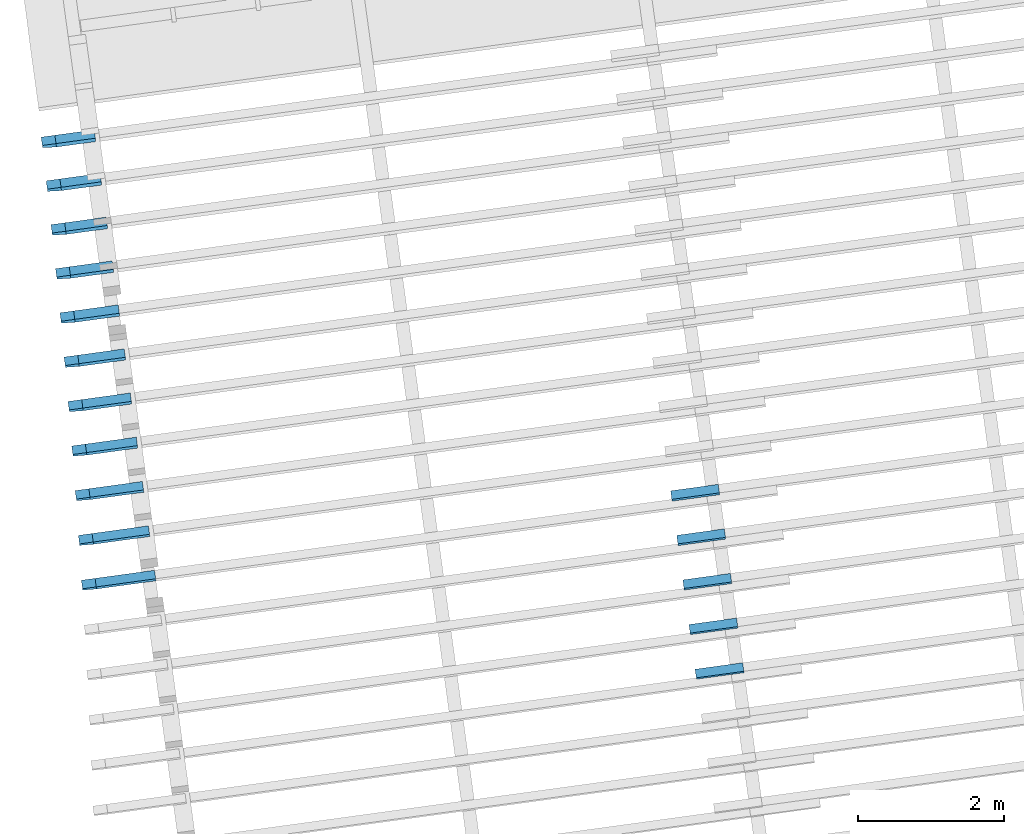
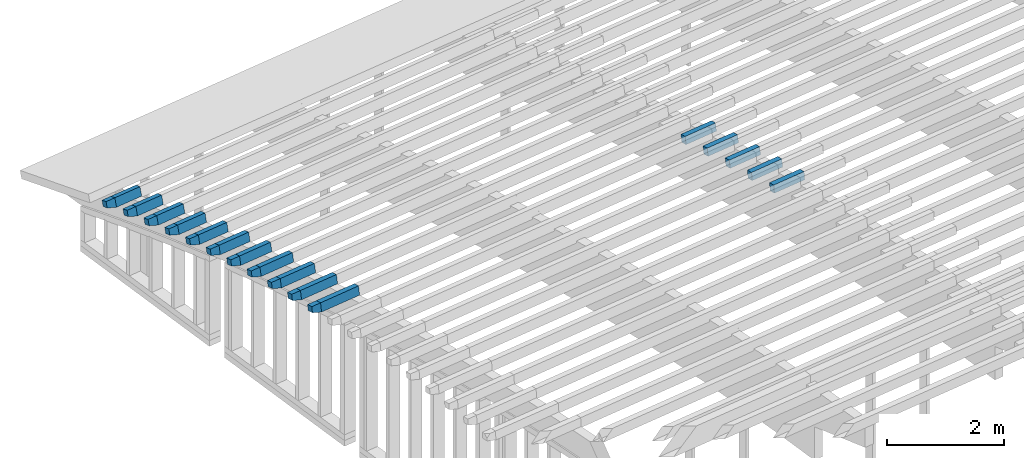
# One storey, part 15 of 18: 27 building element parts, 16 elements without a shape of their own.
"""IFC2X3 building model written with IfcOpenShell, lengths in metres."""

from ifc_helpers import new_model, entity, si_unit, converted_unit, derived_unit, money_unit, direction, frame, origin_with_axes, place, context, subcontext, project, spatial, faceted_brep, material, type_object, element, aggregate, save


model = new_model("IFC2X3")

# Units and contexts
model_context = context("Model", 3, precision=1e-05, world=origin_with_axes(), true_north=direction((0.0, 1.0)))
body_context = subcontext(model_context, "Body", "Model", "MODEL_VIEW")
ifc_project = project(units=[si_unit("LENGTHUNIT", "METRE"), si_unit("AREAUNIT", "SQUARE_METRE"), si_unit("VOLUMEUNIT", "CUBIC_METRE"), converted_unit("PLANEANGLEUNIT", "DEGREE", entity("IfcPlaneAngleMeasure", 0.0174532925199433), si_unit("PLANEANGLEUNIT", "RADIAN"), dimensions=[0, 0, 0, 0, 0, 0, 0]), money_unit("EUR"), converted_unit("TIMEUNIT", "Year", entity("IfcTimeMeasure", 31557600.0), si_unit("TIMEUNIT", "SECOND"), dimensions=[0, 0, 1, 0, 0, 0, 0]), si_unit("MASSUNIT", "GRAM", prefix="KILO"), si_unit("THERMODYNAMICTEMPERATUREUNIT", "DEGREE_CELSIUS"), si_unit("LUMINOUSINTENSITYUNIT", "LUMEN"), si_unit("ENERGYUNIT", "JOULE", prefix="MEGA"), derived_unit("THERMALCONDUCTANCEUNIT", [(si_unit("POWERUNIT", "WATT"), 1), (si_unit("LENGTHUNIT", "METRE"), -1), (si_unit("THERMODYNAMICTEMPERATUREUNIT", "KELVIN"), -1)]), derived_unit("SPECIFICHEATCAPACITYUNIT", [(si_unit("ENERGYUNIT", "JOULE"), 1), (si_unit("MASSUNIT", "GRAM", prefix="KILO"), -1), (si_unit("THERMODYNAMICTEMPERATUREUNIT", "KELVIN"), -1)]), derived_unit("MASSDENSITYUNIT", [(si_unit("MASSUNIT", "GRAM", prefix="KILO"), 1), (si_unit("VOLUMEUNIT", "CUBIC_METRE"), -1)])], contexts=[model_context])

# Site, building, storey
site_placement = place(None, origin_with_axes())
site = spatial("IfcSite", under=ifc_project, at=site_placement, Name="Gelände", CompositionType="ELEMENT")
building_placement = place(site_placement, origin_with_axes())
building = spatial("IfcBuilding", under=site, at=building_placement, Name="Gebäude", CompositionType="ELEMENT")
storey_placement = place(building_placement, frame((0.0, 0.0, 5.5), z_axis=(0.0, 0.0, 1.0), x_axis=(1.0, 0.0, 0.0)))
storey = spatial("IfcBuildingStorey", under=building, at=storey_placement, Name="OG", CompositionType="ELEMENT", Elevation=5.5)

# Beam, building element parts
beam_type_1 = type_object("IfcBeamType", Name="Verschiedene Strukturen - 4 Segmente - 120 x 200 x 9644 (970+7659+825+190)", PredefinedType="NOTDEFINED")
beam_1_placement = place(storey_placement, frame((94.15255742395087, -142.1897953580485, 4.19267556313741), z_axis=(0.0, 0.0, 1.0), x_axis=(-0.1357111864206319, 0.9907484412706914, 0.0)))
beam_1 = element("IfcBeam", 1, at=beam_1_placement, inside=storey, type_object=beam_type_1, Name="Unterzug-031")
ifc_material = material(Name="Bauholz")
building_element_part_1_placement = place(beam_1_placement, origin_with_axes())
building_element_part_1 = element("IfcBuildingElementPart", 2, at=building_element_part_1_placement, material=ifc_material, Name="Bauholz", context=body_context, shape_type="Brep", body=[
    faceted_brep([(-0.0592331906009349, 8.629122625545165, 0.009561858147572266), (0.0592331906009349, 8.629122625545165, -0.009561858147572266), (0.05923319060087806, 9.453691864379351, -0.009561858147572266), (-0.05923319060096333, 9.45369186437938, 0.009561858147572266), (-0.08791876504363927, 8.629122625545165, -0.1681377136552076), (0.03054761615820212, 8.629122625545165, -0.1872614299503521), (0.03054761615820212, 9.453691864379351, -0.1872614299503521), (-0.08791876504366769, 9.45369186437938, -0.1681377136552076)], [[[0, 1, 2, 3]], [[4, 5, 1, 0]], [[1, 5, 6, 2]], [[7, 3, 2, 6]], [[4, 0, 3, 7]], [[5, 4, 7, 6]]]),
])
building_element_part_2_placement = place(beam_1_placement, origin_with_axes())
building_element_part_2 = element("IfcBuildingElementPart", 3, at=building_element_part_2_placement, material=ifc_material, Name="Bauholz", context=body_context, shape_type="Brep", body=[
    faceted_brep([(-0.0592331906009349, 9.643691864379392, 0.009561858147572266), (-0.05923319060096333, 9.45369186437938, 0.009561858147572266), (0.0592331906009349, 9.453691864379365, -0.009561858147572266), (0.0592331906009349, 9.643691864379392, -0.009561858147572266), (-0.07835690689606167, 9.643691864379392, -0.1089045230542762), (-0.08791876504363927, 9.45369186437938, -0.1681377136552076), (0.03054761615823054, 9.453691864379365, -0.1872614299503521), (0.04010947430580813, 9.643691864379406, -0.1280282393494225)], [[[0, 1, 2, 3]], [[4, 5, 1, 0]], [[5, 6, 2, 1]], [[3, 2, 6, 7]], [[4, 0, 3, 7]], [[7, 6, 5, 4]]]),
])
aggregate(beam_1, [building_element_part_1, building_element_part_2])

# Beam, building element part
beam_type_2 = type_object("IfcBeamType", Name="Verschiedene Strukturen - 4 Segmente - 120 x 200 x 9601 (970+7659+782+190)", PredefinedType="NOTDEFINED")
beam_2_placement = place(storey_placement, frame((94.06886552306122, -141.5788094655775, 4.089610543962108), z_axis=(0.0, 0.0, 1.0), x_axis=(-0.1357111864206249, 0.9907484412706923, 0.0)))
beam_2 = element("IfcBeam", 4, at=beam_2_placement, inside=storey, type_object=beam_type_2, Name="Unterzug-031")
building_element_part_3_placement = place(beam_2_placement, origin_with_axes())
building_element_part_3 = element("IfcBuildingElementPart", 5, at=building_element_part_3_placement, material=ifc_material, Name="Bauholz", context=body_context, shape_type="Brep", body=[
    faceted_brep([(-0.05913232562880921, 9.600811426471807, 0.01016700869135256), (-0.05913232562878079, 9.410811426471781, 0.01016700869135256), (0.05913232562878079, 9.410811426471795, -0.01016700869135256), (0.05913232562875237, 9.600811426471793, -0.01016700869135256), (-0.07946634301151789, 9.600811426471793, -0.1080976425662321), (-0.08963335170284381, 9.410811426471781, -0.1672299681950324), (0.02863129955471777, 9.410811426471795, -0.1875639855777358), (0.03879830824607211, 9.600811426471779, -0.1284316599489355)], [[[0, 1, 2, 3]], [[4, 5, 1, 0]], [[5, 6, 2, 1]], [[3, 2, 6, 7]], [[4, 0, 3, 7]], [[7, 6, 5, 4]]]),
])

# Beam, building element parts
beam_type_3 = type_object("IfcBeamType", Name="Verschiedene Strukturen - 4 Segmente - 120 x 200 x 9561 (970+7659+742+190)", PredefinedType="NOTDEFINED")
beam_3_placement = place(storey_placement, frame((93.98532227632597, -140.9689088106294, 3.980241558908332), z_axis=(0.0, 0.0, 1.0), x_axis=(-0.1357111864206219, 0.9907484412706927, 0.0)))
beam_3 = element("IfcBeam", 6, at=beam_3_placement, inside=storey, type_object=beam_type_3, Name="Unterzug-031")
building_element_part_4_placement = place(beam_3_placement, origin_with_axes())
building_element_part_4 = element("IfcBuildingElementPart", 7, at=building_element_part_4_placement, material=ifc_material, Name="Bauholz", context=body_context, shape_type="Brep", body=[
    faceted_brep([(-0.05902139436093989, 8.629122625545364, 0.01079235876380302), (0.05902139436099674, 8.629122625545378, -0.01079235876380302), (0.05902139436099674, 9.371305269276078, -0.01079235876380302), (-0.05902139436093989, 9.371305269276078, 0.01079235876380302), (-0.09139847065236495, 8.629122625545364, -0.1662718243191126), (0.02664431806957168, 8.629122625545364, -0.1878565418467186), (0.02664431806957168, 9.371305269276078, -0.1878565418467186), (-0.09139847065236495, 9.371305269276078, -0.1662718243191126)], [[[0, 1, 2, 3]], [[4, 5, 1, 0]], [[1, 5, 6, 2]], [[7, 3, 2, 6]], [[4, 0, 3, 7]], [[5, 4, 7, 6]]]),
])
building_element_part_5_placement = place(beam_3_placement, origin_with_axes())
building_element_part_5 = element("IfcBuildingElementPart", 8, at=building_element_part_5_placement, material=ifc_material, Name="Bauholz", context=body_context, shape_type="Brep", body=[
    faceted_brep([(-0.05902139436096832, 9.561305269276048, 0.01079235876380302), (-0.05902139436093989, 9.37130526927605, 0.01079235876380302), (0.05902139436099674, 9.37130526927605, -0.01079235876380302), (0.05902139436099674, 9.561305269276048, -0.01079235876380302), (-0.0806061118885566, 9.561305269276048, -0.1072504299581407), (-0.09139847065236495, 9.37130526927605, -0.1662718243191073), (0.02664431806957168, 9.37130526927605, -0.1878565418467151), (0.03743667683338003, 9.561305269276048, -0.1288351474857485)], [[[0, 1, 2, 3]], [[4, 5, 1, 0]], [[5, 6, 2, 1]], [[3, 2, 6, 7]], [[4, 0, 3, 7]], [[7, 6, 5, 4]]]),
])
aggregate(beam_3, [building_element_part_4, building_element_part_5])

beam_type_4 = type_object("IfcBeamType", Name="Verschiedene Strukturen - 4 Segmente - 120 x 200 x 9525 (970+7659+706+190)", PredefinedType="NOTDEFINED")
beam_4_placement = place(storey_placement, frame((93.90193320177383, -140.360133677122, 3.864643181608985), z_axis=(0.0, 0.0, 1.0), x_axis=(-0.1357111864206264, 0.9907484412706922, 0.0)))
beam_4 = element("IfcBeam", 9, at=beam_4_placement, inside=storey, type_object=beam_type_4, Name="Unterzug-031")
building_element_part_6_placement = place(beam_4_placement, origin_with_axes())
building_element_part_6 = element("IfcBuildingElementPart", 10, at=building_element_part_6_placement, material=ifc_material, Name="Bauholz", context=body_context, shape_type="Brep", body=[
    faceted_brep([(-0.05890385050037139, 8.629122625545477, 0.01141649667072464), (0.05890385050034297, 8.629122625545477, -0.01141649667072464), (0.05890385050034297, 9.3351558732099, -0.01141649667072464), (-0.05890385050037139, 9.335155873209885, 0.01141649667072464), (-0.09315334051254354, 8.629122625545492, -0.1652950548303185), (0.02465436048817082, 8.629122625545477, -0.1881280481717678), (0.02465436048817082, 9.335155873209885, -0.1881280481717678), (-0.09315334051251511, 9.335155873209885, -0.1652950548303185)], [[[0, 1, 2, 3]], [[4, 5, 1, 0]], [[1, 5, 6, 2]], [[7, 3, 2, 6]], [[4, 0, 3, 7]], [[5, 4, 7, 6]]]),
])
building_element_part_7_placement = place(beam_4_placement, origin_with_axes())
building_element_part_7 = element("IfcBuildingElementPart", 11, at=building_element_part_7_placement, material=ifc_material, Name="Bauholz", context=body_context, shape_type="Brep", body=[
    faceted_brep([(-0.05890385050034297, 9.525155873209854, 0.01141649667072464), (-0.05890385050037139, 9.335155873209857, 0.01141649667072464), (0.05890385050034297, 9.335155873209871, -0.01141649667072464), (0.05890385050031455, 9.525155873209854, -0.01141649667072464), (-0.08173684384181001, 9.525155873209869, -0.1063912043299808), (-0.09315334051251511, 9.335155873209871, -0.1652950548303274), (0.02465436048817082, 9.335155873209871, -0.1881280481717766), (0.03607085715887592, 9.525155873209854, -0.1292241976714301)], [[[0, 1, 2, 3]], [[4, 5, 1, 0]], [[5, 6, 2, 1]], [[3, 2, 6, 7]], [[4, 0, 3, 7]], [[7, 6, 5, 4]]]),
])
aggregate(beam_4, [building_element_part_6, building_element_part_7])

beam_type_5 = type_object("IfcBeamType", Name="Verschiedene Strukturen - 4 Segmente - 120 x 200 x 9492 (970+7659+673+190)", PredefinedType="NOTDEFINED")
beam_5_placement = place(storey_placement, frame((93.81870340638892, -139.7525213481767, 3.742971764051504), z_axis=(0.0, 0.0, 1.0), x_axis=(-0.1357111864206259, 0.9907484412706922, 0.0)))
beam_5 = element("IfcBeam", 12, at=beam_5_placement, inside=storey, type_object=beam_type_5, Name="Unterzug-031")
building_element_part_8_placement = place(beam_5_placement, origin_with_axes())
building_element_part_8 = element("IfcBuildingElementPart", 13, at=building_element_part_8_placement, material=ifc_material, Name="Bauholz", context=body_context, shape_type="Brep", body=[
    faceted_brep([(-0.05877971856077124, 8.62912262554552, 0.01203929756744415), (0.0587797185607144, 8.629122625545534, -0.01203929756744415), (0.05877971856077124, 9.302344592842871, -0.01203929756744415), (-0.05877971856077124, 9.302344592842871, 0.01203929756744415), (-0.09489761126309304, 8.62912262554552, -0.1642998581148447), (0.0226618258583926, 8.629122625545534, -0.1883784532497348), (0.02266182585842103, 9.302344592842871, -0.1883784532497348), (-0.09489761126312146, 9.302344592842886, -0.1642998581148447)], [[[0, 1, 2, 3]], [[4, 5, 1, 0]], [[1, 5, 6, 2]], [[7, 3, 2, 6]], [[4, 0, 3, 7]], [[5, 4, 7, 6]]]),
])
building_element_part_9_placement = place(beam_5_placement, origin_with_axes())
building_element_part_9 = element("IfcBuildingElementPart", 14, at=building_element_part_9_placement, material=ifc_material, Name="Bauholz", context=body_context, shape_type="Brep", body=[
    faceted_brep([(-0.05877971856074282, 9.492344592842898, 0.01203929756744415), (-0.0587797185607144, 9.302344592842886, 0.01203929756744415), (0.05877971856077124, 9.302344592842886, -0.01203929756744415), (0.05877971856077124, 9.492344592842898, -0.01203929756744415), (-0.08285831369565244, 9.492344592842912, -0.105520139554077), (-0.09489761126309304, 9.302344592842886, -0.1642998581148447), (0.02266182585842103, 9.302344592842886, -0.1883784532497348), (0.03470112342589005, 9.492344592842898, -0.1295987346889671)], [[[0, 1, 2, 3]], [[4, 5, 1, 0]], [[5, 6, 2, 1]], [[3, 2, 6, 7]], [[4, 0, 3, 7]], [[7, 6, 5, 4]]]),
])
aggregate(beam_5, [building_element_part_8, building_element_part_9])

beam_type_6 = type_object("IfcBeamType", Name="Verschiedene Strukturen - 4 Segmente - 120 x 200 x 9463 (970+7659+644+190)", PredefinedType="NOTDEFINED")
beam_6_placement = place(storey_placement, frame((93.73565060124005, -139.1462011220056, 3.614903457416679), z_axis=(0.0, 0.0, 1.0), x_axis=(-0.1357111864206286, 0.9907484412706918, 0.0)))
beam_6 = element("IfcBeam", 15, at=beam_6_placement, inside=storey, type_object=beam_type_6, Name="Unterzug-031")
building_element_part_10_placement = place(beam_6_placement, origin_with_axes())
building_element_part_10 = element("IfcBuildingElementPart", 16, at=building_element_part_10_placement, material=ifc_material, Name="Bauholz", context=body_context, shape_type="Brep", body=[
    faceted_brep([(-0.05864897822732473, 8.629122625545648, 0.0126608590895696), (0.05864897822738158, 8.629122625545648, -0.0126608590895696), (0.05864897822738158, 9.27285166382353, -0.0126608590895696), (-0.05864897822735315, 9.272851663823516, 0.0126608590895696), (-0.09663155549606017, 8.629122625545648, -0.1632860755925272), (0.02066640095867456, 8.629122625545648, -0.1886077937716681), (0.02066640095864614, 9.272851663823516, -0.1886077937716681), (-0.09663155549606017, 9.272851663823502, -0.1632860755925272)], [[[0, 1, 2, 3]], [[4, 5, 1, 0]], [[1, 5, 6, 2]], [[7, 3, 2, 6]], [[4, 0, 3, 7]], [[5, 4, 7, 6]]]),
])
building_element_part_11_placement = place(beam_6_placement, origin_with_axes())
building_element_part_11 = element("IfcBuildingElementPart", 17, at=building_element_part_11_placement, material=ifc_material, Name="Bauholz", context=body_context, shape_type="Brep", body=[
    faceted_brep([(-0.05864897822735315, 9.462851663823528, 0.0126608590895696), (-0.05864897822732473, 9.272851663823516, 0.0126608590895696), (0.05864897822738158, 9.27285166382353, -0.0126608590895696), (0.05864897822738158, 9.462851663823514, -0.0126608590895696), (-0.08397069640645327, 9.462851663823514, -0.1046370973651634), (-0.09663155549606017, 9.272851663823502, -0.1632860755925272), (0.02066640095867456, 9.27285166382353, -0.1886077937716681), (0.03332726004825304, 9.462851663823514, -0.1299588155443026)], [[[0, 1, 2, 3]], [[4, 5, 1, 0]], [[5, 6, 2, 1]], [[3, 2, 6, 7]], [[4, 0, 3, 7]], [[7, 6, 5, 4]]]),
])
aggregate(beam_6, [building_element_part_10, building_element_part_11])

beam_type_7 = type_object("IfcBeamType", Name="Verschiedene Strukturen - 4 Segmente - 120 x 200 x 9437 (970+7659+618+190)", PredefinedType="NOTDEFINED")
beam_7_placement = place(storey_placement, frame((93.65277518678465, -138.5411759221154, 3.480744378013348), z_axis=(0.0, 0.0, 1.0), x_axis=(-0.1357111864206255, 0.9907484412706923, 0.0)))
beam_7 = element("IfcBeam", 18, at=beam_7_placement, inside=storey, type_object=beam_type_7, Name="Unterzug-031")
building_element_part_12_placement = place(beam_7_placement, origin_with_axes())
building_element_part_12 = element("IfcBuildingElementPart", 19, at=building_element_part_12_placement, material=ifc_material, Name="Bauholz", context=body_context, shape_type="Brep", body=[
    faceted_brep([(-0.05851170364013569, 8.629122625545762, 0.01328083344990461), (0.05851170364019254, 8.629122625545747, -0.01328083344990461), (0.05851170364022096, 9.24665620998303, -0.01328083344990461), (-0.05851170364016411, 9.246656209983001, 0.01328083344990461), (-0.09835420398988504, 8.629122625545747, -0.162254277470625), (0.01866920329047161, 8.629122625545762, -0.188815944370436), (0.01866920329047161, 9.246656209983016, -0.188815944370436), (-0.09835420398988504, 9.246656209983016, -0.162254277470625)], [[[0, 1, 2, 3]], [[4, 5, 1, 0]], [[1, 5, 6, 2]], [[7, 3, 2, 6]], [[4, 0, 3, 7]], [[5, 4, 7, 6]]]),
])
building_element_part_13_placement = place(beam_7_placement, origin_with_axes())
building_element_part_13 = element("IfcBuildingElementPart", 20, at=building_element_part_13_placement, material=ifc_material, Name="Bauholz", context=body_context, shape_type="Brep", body=[
    faceted_brep([(-0.05851170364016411, 9.436656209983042, 0.01328083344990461), (-0.05851170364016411, 9.24665620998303, 0.01328083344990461), (0.05851170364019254, 9.246656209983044, -0.01328083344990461), (0.05851170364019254, 9.436656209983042, -0.01328083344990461), (-0.08507337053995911, 9.436656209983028, -0.1037425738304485), (-0.09835420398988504, 9.246656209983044, -0.162254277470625), (0.01866920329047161, 9.24665620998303, -0.188815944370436), (0.03195003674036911, 9.436656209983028, -0.1303042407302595)], [[[0, 1, 2, 3]], [[4, 5, 1, 0]], [[5, 6, 2, 1]], [[3, 2, 6, 7]], [[4, 0, 3, 7]], [[7, 6, 5, 4]]]),
])
aggregate(beam_7, [building_element_part_12, building_element_part_13])

# Building element part
building_element_part_14_placement = place(beam_2_placement, origin_with_axes())
building_element_part_14 = element("IfcBuildingElementPart", 21, at=building_element_part_14_placement, material=ifc_material, Name="Bauholz", context=body_context, shape_type="Brep", body=[
    faceted_brep([(-0.05913232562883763, 8.629122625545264, 0.01016700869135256), (0.05913232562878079, 8.629122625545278, -0.01016700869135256), (0.05913232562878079, 9.410811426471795, -0.01016700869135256), (-0.05913232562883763, 9.410811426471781, 0.01016700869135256), (-0.08963335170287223, 8.629122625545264, -0.167229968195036), (0.02863129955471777, 8.629122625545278, -0.1875639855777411), (0.02863129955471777, 9.410811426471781, -0.1875639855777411), (-0.08963335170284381, 9.410811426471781, -0.167229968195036)], [[[0, 1, 2, 3]], [[4, 5, 1, 0]], [[1, 5, 6, 2]], [[7, 3, 2, 6]], [[4, 0, 3, 7]], [[5, 4, 7, 6]]]),
])

aggregate(beam_2, [building_element_part_3, building_element_part_14])

# Beam, building element parts
beam_type_8 = type_object("IfcBeamType", Name="Verschiedene Strukturen - 4 Segmente - 120 x 200 x 9414 (970+7659+595+190)", PredefinedType="NOTDEFINED")
beam_8_placement = place(storey_placement, frame((93.57008836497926, -137.9375275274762, 3.340410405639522), z_axis=(0.0, 0.0, 1.0), x_axis=(-0.1357111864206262, 0.9907484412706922, 0.0)))
beam_8 = element("IfcBeam", 22, at=beam_8_placement, inside=storey, type_object=beam_type_8, Name="Unterzug-031")
building_element_part_15_placement = place(beam_8_placement, origin_with_axes())
building_element_part_15 = element("IfcBuildingElementPart", 23, at=building_element_part_15_placement, material=ifc_material, Name="Bauholz", context=body_context, shape_type="Brep", body=[
    faceted_brep([(-0.05836784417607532, 8.629105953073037, 0.01389945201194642), (0.05836784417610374, 8.62910595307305, -0.01389945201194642), (0.05836784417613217, 9.223736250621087, -0.01389945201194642), (-0.05836784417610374, 9.223736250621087, 0.01389945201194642), (-0.1000662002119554, 8.62910595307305, -0.1612040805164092), (0.01666948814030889, 8.629105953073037, -0.1890029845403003), (0.01666948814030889, 9.223736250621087, -0.1890029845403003), (-0.100066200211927, 9.223736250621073, -0.1612040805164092)], [[[0, 1, 2, 3]], [[4, 5, 1, 0]], [[1, 5, 6, 2]], [[7, 3, 2, 6]], [[4, 0, 3, 7]], [[5, 4, 7, 6]]]),
])
building_element_part_16_placement = place(beam_8_placement, origin_with_axes())
building_element_part_16 = element("IfcBuildingElementPart", 24, at=building_element_part_16_placement, material=ifc_material, Name="Bauholz", context=body_context, shape_type="Brep", body=[
    faceted_brep([(-0.05836784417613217, 9.413736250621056, 0.01389945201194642), (-0.05836784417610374, 9.223736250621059, 0.01389945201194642), (0.05836784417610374, 9.223736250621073, -0.01389945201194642), (0.05836784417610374, 9.413736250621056, -0.01389945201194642), (-0.08616674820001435, 9.413736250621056, -0.1028362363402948), (-0.1000662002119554, 9.223736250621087, -0.1612040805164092), (0.01666948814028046, 9.223736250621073, -0.1890029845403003), (0.03056894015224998, 9.413736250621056, -0.1306351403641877)], [[[0, 1, 2, 3]], [[4, 5, 1, 0]], [[5, 6, 2, 1]], [[3, 2, 6, 7]], [[4, 0, 3, 7]], [[7, 6, 5, 4]]]),
])
aggregate(beam_8, [building_element_part_15, building_element_part_16])

beam_type_9 = type_object("IfcBeamType", Name="Verschiedene Strukturen - 4 Segmente - 120 x 200 x 9394 (970+7659+575+190)", PredefinedType="NOTDEFINED")
beam_9_placement = place(storey_placement, frame((93.48759860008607, -137.3353177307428, 3.193916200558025), z_axis=(0.0, 0.0, 1.0), x_axis=(-0.1357111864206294, 0.9907484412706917, 0.0)))
beam_9 = element("IfcBeam", 25, at=beam_9_placement, inside=storey, type_object=beam_type_9, Name="Unterzug-031")
building_element_part_17_placement = place(beam_9_placement, origin_with_axes())
building_element_part_17 = element("IfcBuildingElementPart", 26, at=building_element_part_17_placement, material=ifc_material, Name="Bauholz", context=body_context, shape_type="Brep", body=[
    faceted_brep([(-0.05821747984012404, 9.394068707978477, 0.01451637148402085), (-0.05821747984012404, 9.204068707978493, 0.01451637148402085), (0.05821747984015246, 9.204068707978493, -0.01451637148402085), (0.05821747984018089, 9.394068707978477, -0.01451637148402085), (-0.08725022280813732, 9.394068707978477, -0.1019185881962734), (-0.1017665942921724, 9.204068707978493, -0.1601360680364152), (0.01466836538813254, 9.204068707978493, -0.1891688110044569), (0.02918473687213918, 9.394068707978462, -0.1309513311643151)], [[[0, 1, 2, 3]], [[4, 5, 1, 0]], [[5, 6, 2, 1]], [[3, 2, 6, 7]], [[4, 0, 3, 7]], [[7, 6, 5, 4]]]),
])
building_element_part_18_placement = place(beam_9_placement, origin_with_axes())
building_element_part_18 = element("IfcBuildingElementPart", 27, at=building_element_part_18_placement, material=ifc_material, Name="Bauholz", context=body_context, shape_type="Brep", body=[
    faceted_brep([(-0.05821747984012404, 8.629105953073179, 0.01451637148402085), (0.05821747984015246, 8.629105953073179, -0.01451637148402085), (0.05821747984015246, 9.204068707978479, -0.01451637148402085), (-0.05821747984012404, 9.204068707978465, 0.01451637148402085), (-0.1017665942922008, 8.629105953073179, -0.1601360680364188), (0.0146683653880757, 8.629105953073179, -0.1891688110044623), (0.01466836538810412, 9.204068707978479, -0.1891688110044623), (-0.1017665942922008, 9.204068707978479, -0.1601360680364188)], [[[0, 1, 2, 3]], [[4, 5, 1, 0]], [[1, 5, 6, 2]], [[7, 3, 2, 6]], [[4, 0, 3, 7]], [[5, 4, 7, 6]]]),
])
aggregate(beam_9, [building_element_part_17, building_element_part_18])

beam_type_10 = type_object("IfcBeamType", Name="Verschiedene Strukturen - 4 Segmente - 120 x 200 x 9378 (970+7659+559+190)", PredefinedType="NOTDEFINED")
beam_10_placement = place(storey_placement, frame((93.40531435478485, -136.7346083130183, 3.04127648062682), z_axis=(0.0, 0.0, 1.0), x_axis=(-0.1357111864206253, 0.9907484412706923, 0.0)))
beam_10 = element("IfcBeam", 28, at=beam_10_placement, inside=storey, type_object=beam_type_10, Name="Unterzug-031")
building_element_part_19_placement = place(beam_10_placement, origin_with_axes())
building_element_part_19 = element("IfcBuildingElementPart", 29, at=building_element_part_19_placement, material=ifc_material, Name="Bauholz", context=body_context, shape_type="Brep", body=[
    faceted_brep([(-0.05806055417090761, 8.629105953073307, 0.01513182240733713), (0.05806055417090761, 8.629105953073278, -0.01513182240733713), (0.05806055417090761, 9.18762941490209, -0.01513182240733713), (-0.05806055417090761, 9.18762941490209, 0.01513182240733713), (-0.1034560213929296, 8.629105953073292, -0.1590498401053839), (0.01266508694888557, 8.629105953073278, -0.1893134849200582), (0.012665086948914, 9.187629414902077, -0.1893134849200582), (-0.1034560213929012, 9.18762941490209, -0.1590498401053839)], [[[0, 1, 2, 3]], [[4, 5, 1, 0]], [[1, 5, 6, 2]], [[7, 3, 2, 6]], [[4, 0, 3, 7]], [[5, 4, 7, 6]]]),
])
building_element_part_20_placement = place(beam_10_placement, origin_with_axes())
building_element_part_20 = element("IfcBuildingElementPart", 30, at=building_element_part_20_placement, material=ifc_material, Name="Bauholz", context=body_context, shape_type="Brep", body=[
    faceted_brep([(-0.05806055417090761, 9.377629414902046, 0.01513182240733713), (-0.05806055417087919, 9.187629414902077, 0.01513182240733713), (0.05806055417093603, 9.187629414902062, -0.01513182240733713), (0.05806055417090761, 9.377629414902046, -0.01513182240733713), (-0.08832419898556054, 9.377629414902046, -0.1009892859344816), (-0.1034560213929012, 9.187629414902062, -0.1590498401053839), (0.012665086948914, 9.187629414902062, -0.1893134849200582), (0.02779690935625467, 9.37762941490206, -0.1312529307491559)], [[[0, 1, 2, 3]], [[4, 5, 1, 0]], [[5, 6, 2, 1]], [[3, 2, 6, 7]], [[4, 0, 3, 7]], [[7, 6, 5, 4]]]),
])
aggregate(beam_10, [building_element_part_19, building_element_part_20])

beam_type_11 = type_object("IfcBeamType", Name="Verschiedene Strukturen - 4 Segmente - 120 x 200 x 9364 (970+7659+545+190)", PredefinedType="NOTDEFINED")
beam_11_placement = place(storey_placement, frame((93.32324404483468, -136.1354607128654, 2.882507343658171), z_axis=(0.0, 0.0, 1.0), x_axis=(-0.1357111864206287, 0.9907484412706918, 0.0)))
beam_11 = element("IfcBeam", 31, at=beam_11_placement, inside=storey, type_object=beam_type_11, Name="Unterzug-031")
building_element_part_21_placement = place(beam_11_placement, origin_with_axes())
building_element_part_21 = element("IfcBuildingElementPart", 32, at=building_element_part_21_placement, material=ifc_material, Name="Bauholz", context=body_context, shape_type="Brep", body=[
    faceted_brep([(-0.05789720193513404, 8.629105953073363, 0.01574528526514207), (0.05789720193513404, 8.629105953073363, -0.01574528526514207), (0.05789720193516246, 9.174393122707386, -0.01574528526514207), (-0.05789720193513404, 9.1743931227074, 0.01574528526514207), (-0.1051330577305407, 8.629105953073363, -0.1579463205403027), (0.01066134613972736, 8.629105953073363, -0.189436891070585), (0.01066134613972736, 9.174393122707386, -0.189436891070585), (-0.1051330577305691, 9.174393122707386, -0.1579463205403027)], [[[0, 1, 2, 3]], [[4, 5, 1, 0]], [[1, 5, 6, 2]], [[7, 3, 2, 6]], [[4, 0, 3, 7]], [[5, 4, 7, 6]]]),
])
building_element_part_22_placement = place(beam_11_placement, origin_with_axes())
building_element_part_22 = element("IfcBuildingElementPart", 33, at=building_element_part_22_placement, material=ifc_material, Name="Bauholz", context=body_context, shape_type="Brep", body=[
    faceted_brep([(-0.05789720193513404, 9.36439312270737, 0.01574528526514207), (-0.05789720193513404, 9.174393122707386, 0.01574528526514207), (0.05789720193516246, 9.174393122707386, -0.01574528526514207), (0.05789720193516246, 9.36439312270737, -0.01574528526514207), (-0.08938777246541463, 9.36439312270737, -0.1000491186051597), (-0.1051330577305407, 9.174393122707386, -0.1579463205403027), (0.01066134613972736, 9.174393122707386, -0.189436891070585), (0.02640663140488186, 9.36439312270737, -0.1315396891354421)], [[[0, 1, 2, 3]], [[4, 5, 1, 0]], [[5, 6, 2, 1]], [[3, 2, 6, 7]], [[4, 0, 3, 7]], [[7, 6, 5, 4]]]),
])
aggregate(beam_11, [building_element_part_21, building_element_part_22])

# Beam, building element part
beam_type_12 = type_object("IfcBeamType", Name="Verschiedene Strukturen - 3 Segmente - 120 x 200 x 12890 (660+11570+660)", PredefinedType="NOTDEFINED")
beam_12_placement = place(storey_placement, frame((92.94976169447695, -144.1076839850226, 4.448573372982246), z_axis=(0.0, 0.0, 1.0), x_axis=(0.1357111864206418, -0.9907484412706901, 0.0)))
beam_12 = element("IfcBeam", 34, at=beam_12_placement, inside=storey, type_object=beam_type_12, Name="Unterzug-031")
building_element_part_23_placement = place(beam_12_placement, origin_with_axes())
building_element_part_23 = element("IfcBuildingElementPart", 35, at=building_element_part_23_placement, material=ifc_material, Name="Bauholz", context=body_context, shape_type="Brep", body=[
    faceted_brep([(0.05947707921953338, 0.6599999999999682, 0.007904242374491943), (0.05988619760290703, 0.6599999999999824, 0.004825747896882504), (0.0802564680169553, 0.6599999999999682, -0.1507409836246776), (-0.03839909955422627, 0.6599999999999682, -0.1665097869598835), (-0.05947707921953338, 0.6599999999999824, -0.007904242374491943), (0.05948755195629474, 0.4819469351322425, 0.007870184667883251), (0.08025620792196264, 0.0, -0.1507410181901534), (0.05948758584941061, 0.0, 0.007870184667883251), (-0.03839909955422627, 0.0, -0.1665097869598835), (-0.05947707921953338, 0.0, -0.007904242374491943)], [[[0, 1, 2, 3, 4]], [[0, 5, 1]], [[6, 2, 1, 5, 7]], [[3, 2, 6, 8]], [[3, 8, 9, 4]], [[4, 7, 0]], [[5, 0, 7]], [[6, 7, 9, 8]], [[9, 7, 4]]]),
])
aggregate(beam_12, [building_element_part_23])

beam_13_placement = place(storey_placement, frame((93.0339298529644, -144.7221467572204, 4.527794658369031), z_axis=(0.0, 0.0, 1.0), x_axis=(0.1357111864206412, -0.9907484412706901, 0.0)))
beam_13 = element("IfcBeam", 36, at=beam_13_placement, inside=storey, type_object=beam_type_12, Name="Unterzug-031")
building_element_part_24_placement = place(beam_13_placement, origin_with_axes())
building_element_part_24 = element("IfcBuildingElementPart", 37, at=building_element_part_24_placement, material=ifc_material, Name="Bauholz", context=body_context, shape_type="Brep", body=[
    faceted_brep([(0.07866969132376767, 0.6599999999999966, -0.1515453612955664), (0.07866969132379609, 0.4819469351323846, -0.1515453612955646), (0.0790248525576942, 0.4819469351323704, -0.1515043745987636), (0.07902464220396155, 0.6599999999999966, -0.1515026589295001), (0.05984922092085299, 0.6600000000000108, 0.004894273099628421), (0.05984922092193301, 0.4819469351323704, 0.004894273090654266), (0.05983512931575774, 0.0, 0.005009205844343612), (0.07867029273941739, 0.0, -0.1515525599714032), (-0.04008266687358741, 0.0, -0.1661125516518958), (-0.04008266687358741, 0.6600000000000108, -0.1661125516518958), (-0.05955404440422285, 0.6600000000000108, -0.00730176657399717), (0.05955404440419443, 0.6600000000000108, 0.00730176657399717), (0.05955404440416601, 0.0, 0.00730176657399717), (-0.05955404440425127, 0.0, -0.00730176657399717)], [[[0, 1, 2, 3]], [[4, 5, 6, 7, 1, 0]], [[2, 1, 7, 8, 3]], [[3, 9, 10, 11, 4, 0]], [[12, 6, 5, 4, 11]], [[8, 7, 6, 12, 13]], [[9, 3, 8]], [[9, 8, 13, 10]], [[10, 13, 12, 11]]]),
])
aggregate(beam_13, [building_element_part_24])

beam_14_placement = place(storey_placement, frame((92.7817734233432, -142.8812993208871, 4.271317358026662), z_axis=(0.0, 0.0, 1.0), x_axis=(0.1357111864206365, -0.9907484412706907, 0.0)))
beam_14 = element("IfcBeam", 38, at=beam_14_placement, inside=storey, type_object=beam_type_12, Name="Unterzug-031")
building_element_part_25_placement = place(beam_14_placement, origin_with_axes())
building_element_part_25 = element("IfcBuildingElementPart", 39, at=building_element_part_25_placement, material=ifc_material, Name="Bauholz", context=body_context, shape_type="Brep", body=[
    faceted_brep([(0.05930487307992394, 0.6599999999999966, 0.009106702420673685), (0.05962203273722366, 0.6599999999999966, 0.007041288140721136), (0.08306060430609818, 0.6599999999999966, -0.1489921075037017), (0.08357035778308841, 0.6599999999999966, -0.1489155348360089), (0.0835894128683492, 0.6599999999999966, -0.149039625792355), (-0.03502033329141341, 0.6599999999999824, -0.1672530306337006), (-0.05930487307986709, 0.6599999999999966, -0.009106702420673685), (0.0593116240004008, 0.481946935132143, 0.009107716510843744), (0.08307950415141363, 0.4819469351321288, -0.1491179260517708), (0.08306060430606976, 0.481946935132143, -0.1489921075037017), (0.05931136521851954, 0.0, 0.009107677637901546), (0.08307924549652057, 0.0, -0.1491179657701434), (0.0835703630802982, 0.481946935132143, -0.1489155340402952), (0.08357036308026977, 0.6598602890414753, -0.1489155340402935), (-0.03502033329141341, 0.0, -0.1672530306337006), (0.0835894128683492, 0.4819469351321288, -0.149039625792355), (-0.05930487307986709, 0.0, -0.009106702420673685)], [[[0, 1, 2, 3, 4, 5, 6]], [[0, 7, 1]], [[8, 9, 2, 1, 7, 10, 11]], [[12, 13, 3, 2, 9]], [[4, 3, 13]], [[14, 5, 4, 15, 8, 11]], [[16, 6, 5, 14]], [[7, 0, 6, 16, 10]], [[15, 12, 9, 8]], [[11, 10, 16, 14]], [[4, 13, 12, 15]]]),
])
aggregate(beam_14, [building_element_part_25])

beam_15_placement = place(storey_placement, frame((92.69797052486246, -142.26950309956, 4.17330079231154), z_axis=(0.0, 0.0, 1.0), x_axis=(0.1357111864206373, -0.9907484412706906, 0.0)))
beam_15 = element("IfcBeam", 40, at=beam_15_placement, inside=storey, type_object=beam_type_12, Name="Unterzug-031")
building_element_part_26_placement = place(beam_15_placement, origin_with_axes())
building_element_part_26 = element("IfcBuildingElementPart", 41, at=building_element_part_26_placement, material=ifc_material, Name="Bauholz", context=body_context, shape_type="Brep", body=[
    faceted_brep([(0.05920964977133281, 0.6599999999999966, 0.009706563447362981), (0.05971427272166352, 0.6599999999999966, 0.006628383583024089), (0.08469849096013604, 0.6599999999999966, -0.1481422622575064), (0.08507666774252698, 0.6599999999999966, -0.1480812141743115), (0.08509381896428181, 0.6599999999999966, -0.1481858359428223), (-0.03332548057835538, 0.6600000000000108, -0.1675989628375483), (-0.05920964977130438, 0.6599999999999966, -0.009706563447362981), (0.05921717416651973, 0.4819469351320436, 0.009707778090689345), (0.08471553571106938, 0.4819469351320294, -0.1482478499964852), (0.08469849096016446, 0.4819469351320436, -0.1481422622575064), (0.05921691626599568, 0.0, 0.00970773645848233), (0.08471527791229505, 0.0, -0.1482478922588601), (0.08507667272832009, 0.4819469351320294, -0.1480812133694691), (0.08507667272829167, 0.6598820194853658, -0.1480812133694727), (-0.03332548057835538, 0.0, -0.1675989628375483), (0.08509381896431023, 0.4819469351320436, -0.1481858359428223), (-0.05920964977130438, 0.0, -0.009706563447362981)], [[[0, 1, 2, 3, 4, 5, 6]], [[0, 7, 1]], [[8, 9, 2, 1, 7, 10, 11]], [[12, 13, 3, 2, 9]], [[4, 3, 13]], [[14, 5, 4, 15, 8, 11]], [[16, 6, 5, 14]], [[7, 0, 6, 16, 10]], [[15, 12, 9, 8]], [[11, 10, 16, 14]], [[4, 13, 12, 15]]]),
])
aggregate(beam_15, [building_element_part_26])

beam_16_placement = place(storey_placement, frame((92.86570668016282, -143.4940472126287, 4.363078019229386), z_axis=(0.0, 0.0, 1.0), x_axis=(0.1357111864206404, -0.9907484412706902, 0.0)))
beam_16 = element("IfcBeam", 42, at=beam_16_placement, inside=storey, type_object=beam_type_12, Name="Unterzug-031")
building_element_part_27_placement = place(beam_16_placement, origin_with_axes())
building_element_part_27 = element("IfcBuildingElementPart", 43, at=building_element_part_27_placement, material=ifc_material, Name="Bauholz", context=body_context, shape_type="Brep", body=[
    faceted_brep([(0.08166365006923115, 0.6600000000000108, -0.1498305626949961), (0.08166365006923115, 0.4819469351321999, -0.1498305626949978), (0.08206160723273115, 0.4819469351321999, -0.1497745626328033), (0.08206160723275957, 0.660000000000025, -0.1497745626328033), (0.05938295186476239, 0.660000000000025, 0.008504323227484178), (0.05938269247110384, 0.0, 0.008504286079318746), (0.0816781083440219, 0.0, -0.1499351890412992), (0.08167836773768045, 0.4819469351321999, -0.1499351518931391), (0.08207644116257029, 0.4819469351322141, -0.1498781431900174), (0.08207644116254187, 0.6600000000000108, -0.1498781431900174), (-0.03671159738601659, 0.6599999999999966, -0.1668899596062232), (-0.05939401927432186, 0.6600000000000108, -0.008505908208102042), (-0.05939401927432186, 0.0, -0.008505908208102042), (-0.03671159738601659, 0.0, -0.1668899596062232)], [[[0, 1, 2, 3]], [[4, 5, 6, 7, 1, 0]], [[7, 8, 2, 1]], [[3, 2, 8, 9]], [[10, 11, 4, 0, 3, 9]], [[12, 5, 4, 11]], [[13, 6, 5, 12]], [[8, 7, 6, 13, 10, 9]], [[10, 13, 12, 11]]]),
])
aggregate(beam_16, [building_element_part_27])

save(model, "model.ifc")
